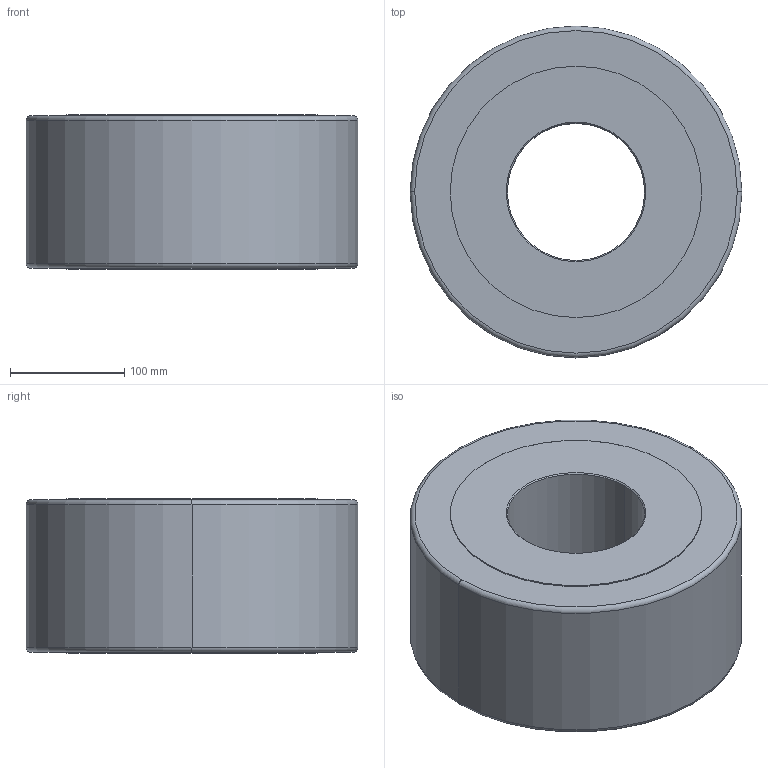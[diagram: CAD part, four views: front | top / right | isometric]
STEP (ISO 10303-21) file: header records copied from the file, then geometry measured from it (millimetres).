
FILE_DESCRIPTION (( 'STEP AP214' ), '1' );
FILE_NAME ('3DRSU120-290.STEP', '2013-12-19T09:48:46', ( 'usuario' ), ( 'Hewlett-Packard Company' ), 'SwSTEP 2.0', 'SolidWorks 2017', '' );
FILE_SCHEMA (( 'AUTOMOTIVE_DESIGN' ));
Length unit declared in the file: millimetre
Products named in the file (1): 3DRSU120-290
Bounding box: 290 x 290 x 135 mm (x, y, z)
Volume: 7327431.8 mm3; surface area: 279349.4 mm2
Topology: 1 solids, 1 shells, 20 faces, 40 edges, 24 vertices
Faces by surface type: cylinder 8, cone 4, torus 4, plane 4
Entity records: 566 total; most frequent: DIRECTION 110, CARTESIAN_POINT 85, ORIENTED_EDGE 80, AXIS2_PLACEMENT_3D 49, EDGE_CURVE 40, CIRCLE 28, VERTEX_POINT 24, EDGE_LOOP 24
